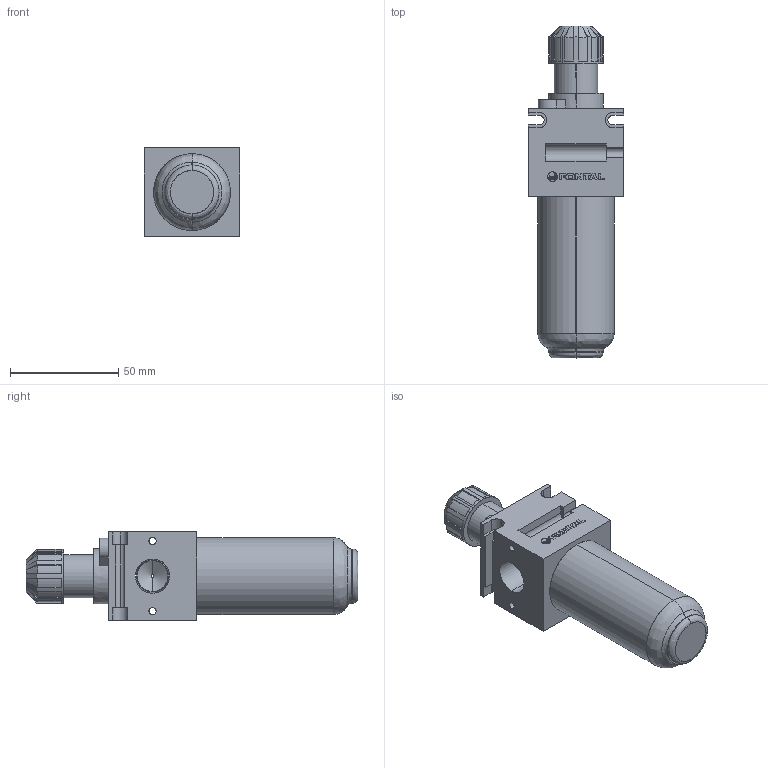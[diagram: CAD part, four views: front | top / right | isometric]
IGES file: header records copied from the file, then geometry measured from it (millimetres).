
Start section: SolidWorks IGES file using analytic representation for surfaces
Global section: file name: C:\Users\Toshiba\Desktop\L45-03#.IGS; native system: SolidWorks 2014; preprocessor: SolidWorks 2014; author: Toshiba; date: 160203.142652; units: millimetre
Bounding box: 44 x 153.5 x 41.12 mm (x, y, z)
Surface area: 29592.4 mm2 (no closed solid volume)
Topology: 0 solids, 0 shells, 297 faces, 2982 edges, 2982 vertices
Faces by surface type: bspline 205, revolution 92
